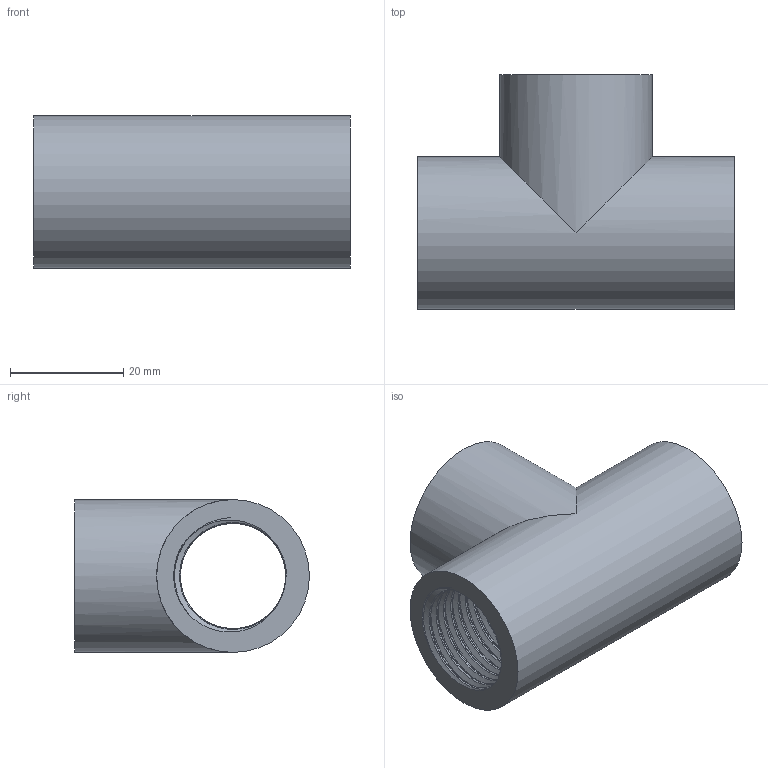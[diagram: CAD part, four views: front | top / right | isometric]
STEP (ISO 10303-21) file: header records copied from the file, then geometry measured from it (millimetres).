
FILE_DESCRIPTION(/* description */ ('(descrizione)'),/* implementation_level */ '2;1');
FILE_NAME(/* name */ 'C:\Users\POLYPIPE\Desktop\DATASET INVENTOR\LIBRERIA EFFAST\RACCORDI 3DxWEB\RER\3D_RERTIE\3D_RERTIE020B.stp',/* time_stamp */ '2018-01-19T17:20:22+01:00',/* author */ ('POLYPIPE'),/* organization */ ('Polypipe Italia s.r.l.'),/* preprocessor_version */ 'ST-DEVELOPER v16.1',/* originating_system */ 'Autodesk Inventor 2016',/* authorisation */ '');
FILE_SCHEMA (('CONFIG_CONTROL_DESIGN'));
Length unit declared in the file: millimetre
Products named in the file (1): 3D_RERTIE
Bounding box: 56 x 41.5 x 27 mm (x, y, z)
Volume: 18874.5 mm3; surface area: 13258 mm2
Topology: 1 solids, 1 shells, 25 faces, 70 edges, 46 vertices
Faces by surface type: bspline 15, plane 6, cylinder 4
Full cylindrical faces by diameter (mm): 18.631 x2, 27 x2
Entity records: 12011 total; most frequent: CARTESIAN_POINT 11494, ORIENTED_EDGE 116, DIRECTION 63, EDGE_CURVE 58, VERTEX_POINT 40, EDGE_LOOP 34, B_SPLINE_CURVE_WITH_KNOTS 33, AXIS2_PLACEMENT_3D 27
